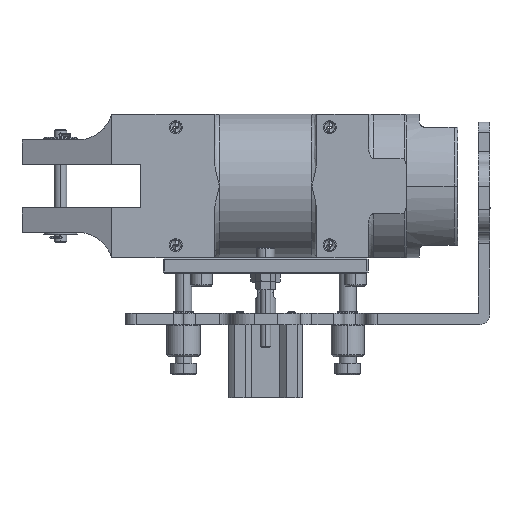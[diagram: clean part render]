
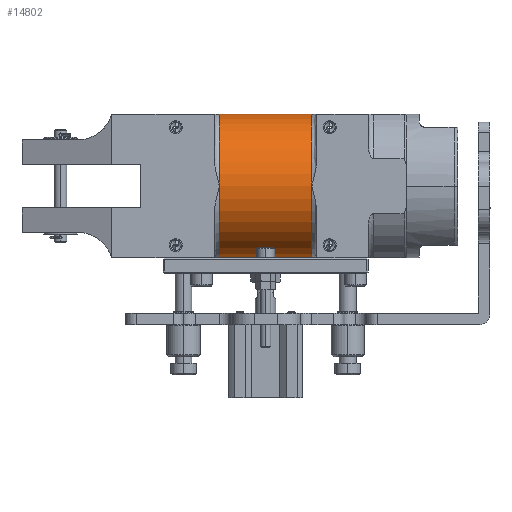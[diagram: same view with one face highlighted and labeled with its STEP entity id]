
A CAD part, left-side view. The second image highlights one B-rep face of the part: STEP entity #14802.
In plain terms, the highlighted cylindrical face has radius 28 mm (diameter 56 mm), a partial arc.
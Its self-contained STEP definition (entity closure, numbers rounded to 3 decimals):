
#554 = CARTESIAN_POINT ( 'NONE',  ( -39.076, 17.644, 31. ) ) ;
#753 = DIRECTION ( 'NONE',  ( 0., -1., 0. ) ) ;
#1534 = LINE ( 'NONE', #17196, #30387 ) ;
#2415 = DIRECTION ( 'NONE',  ( 0., 0., 1. ) ) ;
#2998 = EDGE_CURVE ( 'NONE', #26254, #26660, #18321, .T. ) ;
#3957 = ORIENTED_EDGE ( 'NONE', *, *, #22739, .T. ) ;
#5001 = VERTEX_POINT ( 'NONE', #28895 ) ;
#5483 = CARTESIAN_POINT ( 'NONE',  ( -11.076, -18.356, 31. ) ) ;
#5717 = CYLINDRICAL_SURFACE ( 'NONE', #12506, 28. ) ;
#6872 = CARTESIAN_POINT ( 'NONE',  ( -39.076, -18.356, 31. ) ) ;
#7679 = CIRCLE ( 'NONE', #34036, 28. ) ;
#8287 = DIRECTION ( 'NONE',  ( -1., 0., 0. ) ) ;
#8455 = DIRECTION ( 'NONE',  ( 0., -1., 0. ) ) ;
#8614 = ORIENTED_EDGE ( 'NONE', *, *, #2998, .T. ) ;
#8733 = CARTESIAN_POINT ( 'NONE',  ( -11.076, -18.356, 59. ) ) ;
#8745 = CIRCLE ( 'NONE', #30948, 28. ) ;
#10753 = EDGE_CURVE ( 'NONE', #23063, #5001, #13867, .T. ) ;
#11704 = DIRECTION ( 'NONE',  ( 0., 1., 0. ) ) ;
#12506 = AXIS2_PLACEMENT_3D ( 'NONE', #22155, #16664, #36120 ) ;
#13545 = FACE_OUTER_BOUND ( 'NONE', #13827, .T. ) ;
#13827 = EDGE_LOOP ( 'NONE', ( #30331, #16262, #23940, #8614, #3957, #34616 ) ) ;
#13867 = CIRCLE ( 'NONE', #21328, 28. ) ;
#14802 = ADVANCED_FACE ( 'NONE', ( #13545 ), #5717, .T. ) ;
#15921 = CARTESIAN_POINT ( 'NONE',  ( -11.076, 17.644, 59. ) ) ;
#16262 = ORIENTED_EDGE ( 'NONE', *, *, #10753, .F. ) ;
#16664 = DIRECTION ( 'NONE',  ( 0., 1., 0. ) ) ;
#17196 = CARTESIAN_POINT ( 'NONE',  ( -11.076, -18.356, 3. ) ) ;
#17509 = CARTESIAN_POINT ( 'NONE',  ( -11.076, 17.644, 31. ) ) ;
#17523 = DIRECTION ( 'NONE',  ( 0., 1., 0. ) ) ;
#18321 = LINE ( 'NONE', #27791, #24876 ) ;
#19151 = DIRECTION ( 'NONE',  ( 0., -1., 0. ) ) ;
#19817 = CIRCLE ( 'NONE', #21505, 28. ) ;
#20296 = DIRECTION ( 'NONE',  ( 0., 0., 1. ) ) ;
#20343 = EDGE_CURVE ( 'NONE', #26254, #23063, #19817, .T. ) ;
#21328 = AXIS2_PLACEMENT_3D ( 'NONE', #5483, #25029, #8287 ) ;
#21505 = AXIS2_PLACEMENT_3D ( 'NONE', #35907, #19151, #2415 ) ;
#22155 = CARTESIAN_POINT ( 'NONE',  ( -11.076, -18.356, 31. ) ) ;
#22739 = EDGE_CURVE ( 'NONE', #26660, #23773, #8745, .T. ) ;
#22780 = CARTESIAN_POINT ( 'NONE',  ( -11.076, 17.644, 3. ) ) ;
#23063 = VERTEX_POINT ( 'NONE', #6872 ) ;
#23773 = VERTEX_POINT ( 'NONE', #554 ) ;
#23940 = ORIENTED_EDGE ( 'NONE', *, *, #20343, .F. ) ;
#24876 = VECTOR ( 'NONE', #17523, 1000. ) ;
#25029 = DIRECTION ( 'NONE',  ( 0., -1., 0. ) ) ;
#25068 = EDGE_CURVE ( 'NONE', #23773, #30659, #7679, .T. ) ;
#25217 = CARTESIAN_POINT ( 'NONE',  ( -11.076, 17.644, 31. ) ) ;
#26254 = VERTEX_POINT ( 'NONE', #8733 ) ;
#26660 = VERTEX_POINT ( 'NONE', #15921 ) ;
#27791 = CARTESIAN_POINT ( 'NONE',  ( -11.076, -18.356, 59. ) ) ;
#28010 = DIRECTION ( 'NONE',  ( 0., 0., 1. ) ) ;
#28895 = CARTESIAN_POINT ( 'NONE',  ( -11.076, -18.356, 3. ) ) ;
#30331 = ORIENTED_EDGE ( 'NONE', *, *, #35467, .F. ) ;
#30387 = VECTOR ( 'NONE', #11704, 1000. ) ;
#30659 = VERTEX_POINT ( 'NONE', #22780 ) ;
#30948 = AXIS2_PLACEMENT_3D ( 'NONE', #25217, #8455, #28010 ) ;
#34036 = AXIS2_PLACEMENT_3D ( 'NONE', #17509, #753, #20296 ) ;
#34616 = ORIENTED_EDGE ( 'NONE', *, *, #25068, .T. ) ;
#35467 = EDGE_CURVE ( 'NONE', #5001, #30659, #1534, .T. ) ;
#35907 = CARTESIAN_POINT ( 'NONE',  ( -11.076, -18.356, 31. ) ) ;
#36120 = DIRECTION ( 'NONE',  ( 0., 0., 1. ) ) ;
